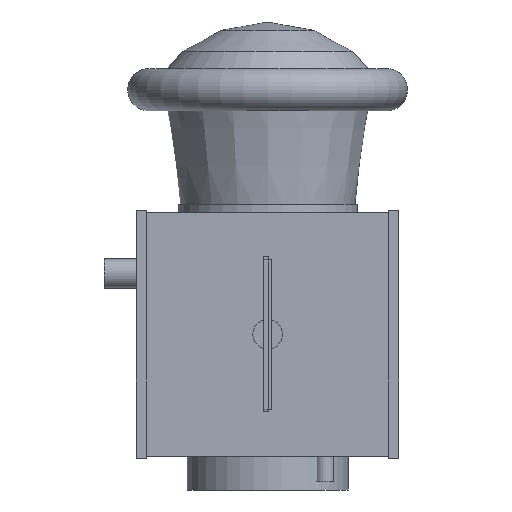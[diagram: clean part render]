
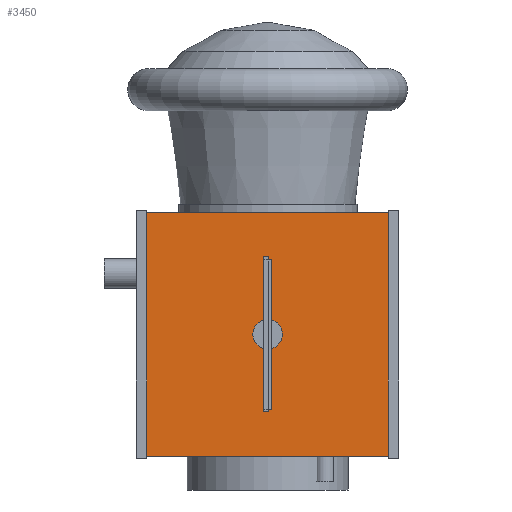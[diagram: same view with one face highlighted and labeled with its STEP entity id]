
A CAD part, left-side view. The second image highlights one B-rep face of the part: STEP entity #3450.
In plain terms, the highlighted planar face has unit normal (-1, 0, 0).
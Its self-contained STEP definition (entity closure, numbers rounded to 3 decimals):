
#3450 = ADVANCED_FACE('',(#3451),#3465,.F.);
#3451 = FACE_BOUND('',#3452,.F.);
#3452 = EDGE_LOOP('',(#3453,#3488,#3516,#3544));
#3453 = ORIENTED_EDGE('',*,*,#3454,.F.);
#3454 = EDGE_CURVE('',#3455,#3457,#3459,.T.);
#3455 = VERTEX_POINT('',#3456);
#3456 = CARTESIAN_POINT('',(-0.296,-0.296,-0.576));
#3457 = VERTEX_POINT('',#3458);
#3458 = CARTESIAN_POINT('',(-0.296,-0.296,0.));
#3459 = SURFACE_CURVE('',#3460,(#3464,#3476),.PCURVE_S1.);
#3460 = LINE('',#3461,#3462);
#3461 = CARTESIAN_POINT('',(-0.296,-0.296,-0.576));
#3462 = VECTOR('',#3463,1.);
#3463 = DIRECTION('',(0.,0.,1.));
#3464 = PCURVE('',#3465,#3470);
#3465 = PLANE('',#3466);
#3466 = AXIS2_PLACEMENT_3D('',#3467,#3468,#3469);
#3467 = CARTESIAN_POINT('',(-0.296,-0.296,-0.576));
#3468 = DIRECTION('',(1.,0.,0.));
#3469 = DIRECTION('',(0.,0.,1.));
#3470 = DEFINITIONAL_REPRESENTATION('',(#3471),#3475);
#3471 = LINE('',#3472,#3473);
#3472 = CARTESIAN_POINT('',(0.,0.));
#3473 = VECTOR('',#3474,1.);
#3474 = DIRECTION('',(1.,0.));
#3475 = ( GEOMETRIC_REPRESENTATION_CONTEXT(2) 
PARAMETRIC_REPRESENTATION_CONTEXT() REPRESENTATION_CONTEXT('2D SPACE',''
  ) );
#3476 = PCURVE('',#3477,#3482);
#3477 = PLANE('',#3478);
#3478 = AXIS2_PLACEMENT_3D('',#3479,#3480,#3481);
#3479 = CARTESIAN_POINT('',(-0.296,-0.296,-0.576));
#3480 = DIRECTION('',(0.,1.,0.));
#3481 = DIRECTION('',(0.,0.,1.));
#3482 = DEFINITIONAL_REPRESENTATION('',(#3483),#3487);
#3483 = LINE('',#3484,#3485);
#3484 = CARTESIAN_POINT('',(0.,0.));
#3485 = VECTOR('',#3486,1.);
#3486 = DIRECTION('',(1.,0.));
#3487 = ( GEOMETRIC_REPRESENTATION_CONTEXT(2) 
PARAMETRIC_REPRESENTATION_CONTEXT() REPRESENTATION_CONTEXT('2D SPACE',''
  ) );
#3488 = ORIENTED_EDGE('',*,*,#3489,.T.);
#3489 = EDGE_CURVE('',#3455,#3490,#3492,.T.);
#3490 = VERTEX_POINT('',#3491);
#3491 = CARTESIAN_POINT('',(-0.296,0.296,-0.576));
#3492 = SURFACE_CURVE('',#3493,(#3497,#3504),.PCURVE_S1.);
#3493 = LINE('',#3494,#3495);
#3494 = CARTESIAN_POINT('',(-0.296,-0.296,-0.576));
#3495 = VECTOR('',#3496,1.);
#3496 = DIRECTION('',(0.,1.,0.));
#3497 = PCURVE('',#3465,#3498);
#3498 = DEFINITIONAL_REPRESENTATION('',(#3499),#3503);
#3499 = LINE('',#3500,#3501);
#3500 = CARTESIAN_POINT('',(0.,0.));
#3501 = VECTOR('',#3502,1.);
#3502 = DIRECTION('',(0.,-1.));
#3503 = ( GEOMETRIC_REPRESENTATION_CONTEXT(2) 
PARAMETRIC_REPRESENTATION_CONTEXT() REPRESENTATION_CONTEXT('2D SPACE',''
  ) );
#3504 = PCURVE('',#3505,#3510);
#3505 = PLANE('',#3506);
#3506 = AXIS2_PLACEMENT_3D('',#3507,#3508,#3509);
#3507 = CARTESIAN_POINT('',(-0.296,-0.296,-0.576));
#3508 = DIRECTION('',(0.,0.,1.));
#3509 = DIRECTION('',(1.,0.,0.));
#3510 = DEFINITIONAL_REPRESENTATION('',(#3511),#3515);
#3511 = LINE('',#3512,#3513);
#3512 = CARTESIAN_POINT('',(0.,0.));
#3513 = VECTOR('',#3514,1.);
#3514 = DIRECTION('',(0.,1.));
#3515 = ( GEOMETRIC_REPRESENTATION_CONTEXT(2) 
PARAMETRIC_REPRESENTATION_CONTEXT() REPRESENTATION_CONTEXT('2D SPACE',''
  ) );
#3516 = ORIENTED_EDGE('',*,*,#3517,.T.);
#3517 = EDGE_CURVE('',#3490,#3518,#3520,.T.);
#3518 = VERTEX_POINT('',#3519);
#3519 = CARTESIAN_POINT('',(-0.296,0.296,0.));
#3520 = SURFACE_CURVE('',#3521,(#3525,#3532),.PCURVE_S1.);
#3521 = LINE('',#3522,#3523);
#3522 = CARTESIAN_POINT('',(-0.296,0.296,-0.576));
#3523 = VECTOR('',#3524,1.);
#3524 = DIRECTION('',(0.,0.,1.));
#3525 = PCURVE('',#3465,#3526);
#3526 = DEFINITIONAL_REPRESENTATION('',(#3527),#3531);
#3527 = LINE('',#3528,#3529);
#3528 = CARTESIAN_POINT('',(0.,-0.591));
#3529 = VECTOR('',#3530,1.);
#3530 = DIRECTION('',(1.,0.));
#3531 = ( GEOMETRIC_REPRESENTATION_CONTEXT(2) 
PARAMETRIC_REPRESENTATION_CONTEXT() REPRESENTATION_CONTEXT('2D SPACE',''
  ) );
#3532 = PCURVE('',#3533,#3538);
#3533 = PLANE('',#3534);
#3534 = AXIS2_PLACEMENT_3D('',#3535,#3536,#3537);
#3535 = CARTESIAN_POINT('',(-0.296,0.296,-0.576));
#3536 = DIRECTION('',(0.,1.,0.));
#3537 = DIRECTION('',(0.,0.,1.));
#3538 = DEFINITIONAL_REPRESENTATION('',(#3539),#3543);
#3539 = LINE('',#3540,#3541);
#3540 = CARTESIAN_POINT('',(0.,0.));
#3541 = VECTOR('',#3542,1.);
#3542 = DIRECTION('',(1.,0.));
#3543 = ( GEOMETRIC_REPRESENTATION_CONTEXT(2) 
PARAMETRIC_REPRESENTATION_CONTEXT() REPRESENTATION_CONTEXT('2D SPACE',''
  ) );
#3544 = ORIENTED_EDGE('',*,*,#3545,.F.);
#3545 = EDGE_CURVE('',#3457,#3518,#3546,.T.);
#3546 = SURFACE_CURVE('',#3547,(#3551,#3558),.PCURVE_S1.);
#3547 = LINE('',#3548,#3549);
#3548 = CARTESIAN_POINT('',(-0.296,-0.296,0.));
#3549 = VECTOR('',#3550,1.);
#3550 = DIRECTION('',(0.,1.,0.));
#3551 = PCURVE('',#3465,#3552);
#3552 = DEFINITIONAL_REPRESENTATION('',(#3553),#3557);
#3553 = LINE('',#3554,#3555);
#3554 = CARTESIAN_POINT('',(0.576,0.));
#3555 = VECTOR('',#3556,1.);
#3556 = DIRECTION('',(0.,-1.));
#3557 = ( GEOMETRIC_REPRESENTATION_CONTEXT(2) 
PARAMETRIC_REPRESENTATION_CONTEXT() REPRESENTATION_CONTEXT('2D SPACE',''
  ) );
#3558 = PCURVE('',#3559,#3564);
#3559 = PLANE('',#3560);
#3560 = AXIS2_PLACEMENT_3D('',#3561,#3562,#3563);
#3561 = CARTESIAN_POINT('',(-0.296,-0.296,0.));
#3562 = DIRECTION('',(0.,0.,1.));
#3563 = DIRECTION('',(1.,0.,0.));
#3564 = DEFINITIONAL_REPRESENTATION('',(#3565),#3569);
#3565 = LINE('',#3566,#3567);
#3566 = CARTESIAN_POINT('',(0.,0.));
#3567 = VECTOR('',#3568,1.);
#3568 = DIRECTION('',(0.,1.));
#3569 = ( GEOMETRIC_REPRESENTATION_CONTEXT(2) 
PARAMETRIC_REPRESENTATION_CONTEXT() REPRESENTATION_CONTEXT('2D SPACE',''
  ) );
